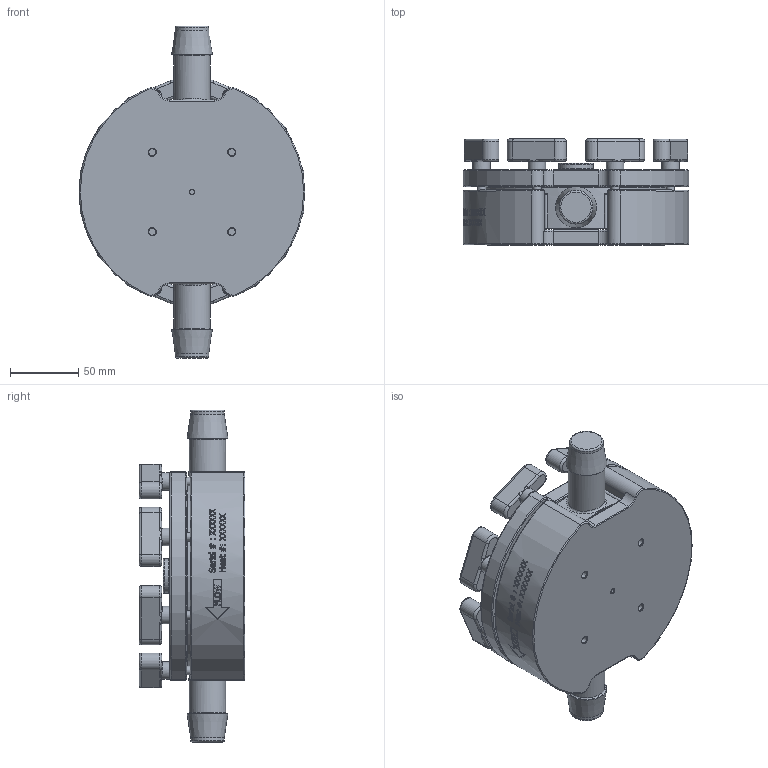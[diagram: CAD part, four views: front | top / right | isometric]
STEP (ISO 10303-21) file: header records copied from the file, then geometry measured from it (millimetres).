
FILE_DESCRIPTION(/* description */ (''),/* implementation_level */ '2;1');
FILE_NAME(/* name */ 'SDO8-CA-G3 Installation Assembly.stp',/* time_stamp */ '2024-08-16T13:20:43-04:00',/* author */ ('kdone'),/* organization */ (''),/* preprocessor_version */ 'ST-DEVELOPER v19.2',/* originating_system */ 'Autodesk Inventor 2023',/* authorisation */ '');
FILE_SCHEMA (('AUTOMOTIVE_DESIGN { 1 0 10303 214 3 1 1 }'));
Products named in the file (1): SDO8-CA-G3 Installation Assembly_Simplify_2
Bounding box: 165.1 x 77.47 x 243.21 mm (x, y, z)
Volume: 1089788.7 mm3; surface area: 204957.5 mm2
Topology: 1 solids, 1 shells, 1972 faces, 5226 edges, 3302 vertices
Faces by surface type: plane 1064, bspline 429, cylinder 248, torus 172, cone 53, sphere 6
Full cylindrical faces by diameter (mm): 3.175 x2, 4.978 x4, 6.205 x8, 6.401 x16, 8.204 x8, 8.306 x1, 8.89 x1, 12.954 x8, 24.74 x2, 25.4 x1, 26.67 x2, 115.493 x1, 132.479 x1, 133.985 x1
Entity records: 74050 total; most frequent: CARTESIAN_POINT 25299, ORIENTED_EDGE 10274, DIRECTION 8750, EDGE_CURVE 5137, VERTEX_POINT 3302, LINE 3032, VECTOR 3032, AXIS2_PLACEMENT_3D 2859
